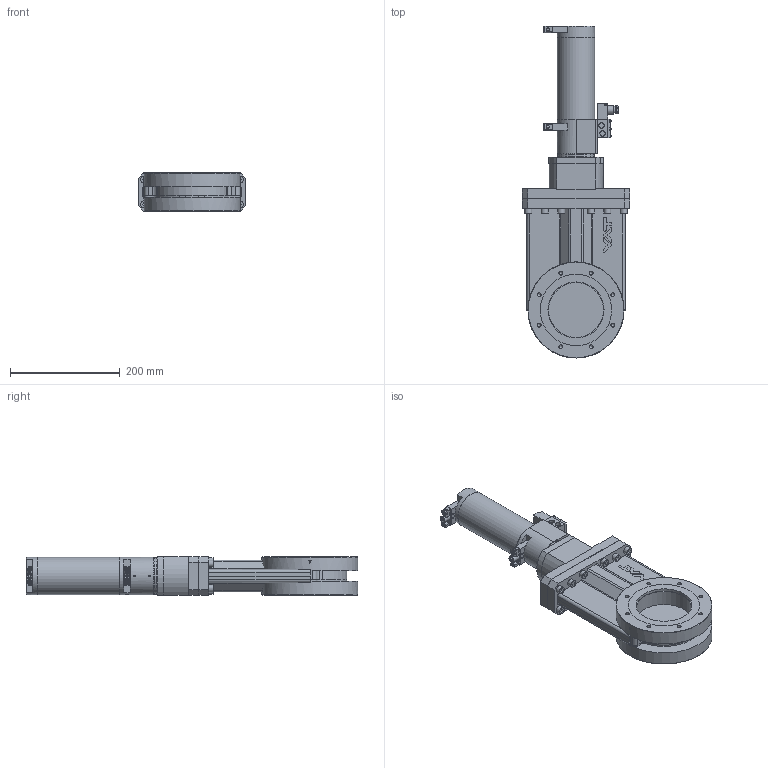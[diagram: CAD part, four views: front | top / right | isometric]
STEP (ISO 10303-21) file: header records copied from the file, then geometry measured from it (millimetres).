
FILE_DESCRIPTION(/* description */ (''),/* implementation_level */ '2;1');
FILE_NAME(/* name */ '1229603668_203.stp',/* time_stamp */ '2015-01-23T17:18:09+01:00',/* author */ (''),/* organization */ (''),/* preprocessor_version */ 'ST-DEVELOPER v11',/* originating_system */ 'SIEMENS PLM Software NX 7.5',/* authorisation */ '');
FILE_SCHEMA (('AP203_CONFIGURATION_CONTROLLED_3D_DESIGN_OF_MECHANICAL_PARTS_AND_ASSEMBLIES_MIM_LF'));
Length unit declared in the file: millimetre
Products named in the file (48): 92838-01_4.2; 92838-01_1.2; 80477-01.1; N-7100-005_2.1; 80478-01.1; N-6195-007.2; 93115-01.1; 87105-01.1; N-6121-032.2; 98926-01.1; 73662-01.1; 467882; 437235; 387430_19684ID; 557664; 386549_19695ID; 386549_19688ID; 717226; 742300; 367561.2; n-6005-083.1; 83699-01.1; 83414-01.1; 83529-01.1; 77379-01.1; N-6016-478.2; N-7557-016_1.1; N-7557-018.1; N-7557-016_2.1; N-6024-524.1; N-5018-005.1; 545335; 387433_19689ID; 446991; 224837.1; 717224_MODEL; 87090-r1.22_NX-ARRAGMNTunbetaetigt Hub 0mm (mit Feder); 87090-r1.22_NX-ARRAGMNTclose_213913 Hub 2,95mm (mit Feder); 98926-r1.1; 740313_NX-ARRAGMNTMassbild Ventil geschlossen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
Assembly tree (75 placements, depth 4):
  784426
    387438_NX-ARRAGMNTGehäuse_kpl_Massbild
      387433_19689ID
      386541_NX-ARRAGMNTGehäuseschale_kpl_bearbeitet
        386549_19688ID
        386549_19695ID
        557664
      545335  x2
      784167_MODEL
        387430_19684ID
    94800-r1.7_NX-ARRAGMNTKONFIG1
      N-5018-005.1  x2
      N-6024-524.1  x6
      N-7557-016_2.1
      N-7557-018.1
      N-7557-016_1.1
      N-7557-016_3.1_MODELNX-ARRAGMNTArrangement 1
        437235
        467882
    78855-r1.9_NX-ARRAGMNTMassbild, alle Innenteile unterdrueckt  x2
      N-6016-478.2
      78856-R1.3
        73662-01.1
      77379-01.1
    740313_NX-ARRAGMNTMassbild Ventil geschlossen
      98926-r1.1
        98926-01.1
        N-6121-032.2
      83529-01.1
      83414-01.1  x2
      87090-r1.22_NX-ARRAGMNTclose_213913 Hub 2,95mm (mit Feder)
        87105-01.1
        93115-01.1
        N-6195-007.2
        80478-01.1
        N-7100-005_2.1
        80477-01.1
        92838-01_1.2
      83699-01.1
      87090-r1.22_NX-ARRAGMNTunbetaetigt Hub 0mm (mit Feder)
        87105-01.1
        93115-01.1
        N-6195-007.2
        80478-01.1
        92838-01_4.2
        N-7100-005_2.1
        80477-01.1
      n-6005-083.1
    224837.1  x12
    717224_MODEL
      367561.2  x2
      742300
      717226
    446991
Bounding box: 195 x 604.83 x 70 mm (x, y, z)
Volume: 2102777.6 mm3; surface area: 593722.1 mm2
Topology: 93 solids, 93 shells, 1984 faces, 4988 edges, 3299 vertices
Faces by surface type: plane 1141, cylinder 570, cone 133, bspline 72, torus 32, extrusion 20, sphere 14, revolution 2
Full cylindrical faces by diameter (mm): 1.875 x2, 2.115 x8, 2.475 x6, 2.5 x6, 2.56 x2, 2.575 x2, 3 x16, 3.04 x4, 3.2 x2, 3.3 x5, 3.4 x4, 3.5 x13, 4 x2, 4.2 x3, 4.22 x1, 4.7 x4, 4.8 x1, 5 x3, 5.5 x3, 5.6 x2, 5.65 x2, 5.7 x2, 5.8 x4, 6 x9, 6.475 x2, 6.66 x13, 6.7 x13, 6.8 x34, 6.98 x2, 7 x1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
Entity records: 55801 total; most frequent: CARTESIAN_POINT 14735, DIRECTION 6587, ORIENTED_EDGE 6438, EDGE_CURVE 3219, AXIS2_PLACEMENT_3D 2464, VERTEX_POINT 2341, EDGE_LOOP 1946, VECTOR 1658
